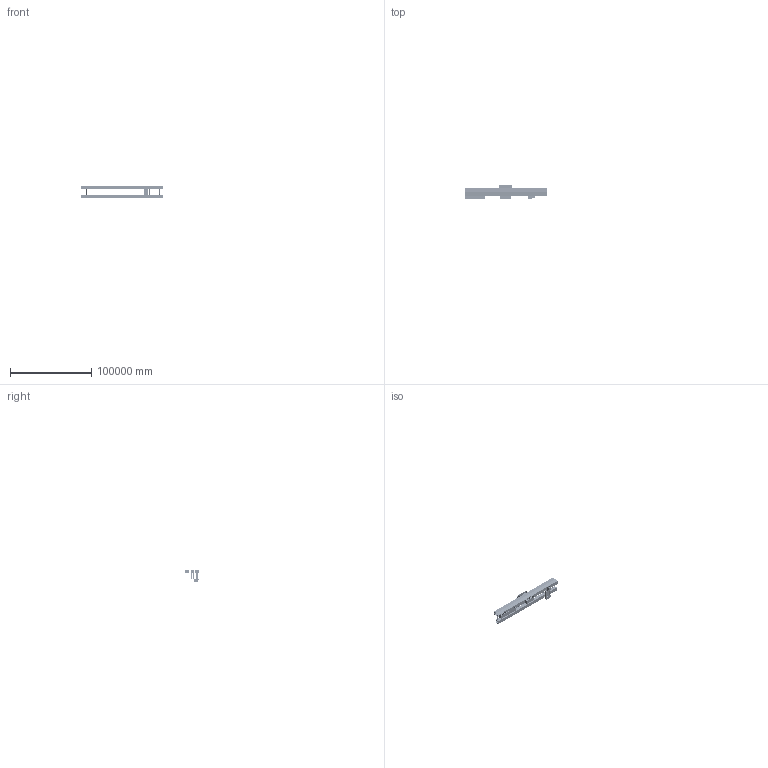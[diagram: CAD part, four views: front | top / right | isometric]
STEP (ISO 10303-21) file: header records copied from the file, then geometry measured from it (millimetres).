
FILE_DESCRIPTION(/* description */ ('Unknown','CAx-IF Rec.Pracs.---Representation and Presentation of Product Manufacturing Information (PMI)---4.0---2014-10-13','CAx-IF Rec.Pracs.---3D Tessellated Geometry---0.4---2014-09-14','2;1'),/* implementation_level */ '2;1');
FILE_NAME(/* name */ 'DSG-000024077_sector_09',/* time_stamp */ '2022-01-14T10:18:34-08:00',/* author */ ('Unknown'),/* organization */ ('Unknown'),/* preprocessor_version */ 'ST-DEVELOPER v16.7',/* originating_system */ 'DEX',/* authorisation */ $);
FILE_SCHEMA (('AP242_MANAGED_MODEL_BASED_3D_ENGINEERING_MIM_LF { 1 0 10303 442 1 1 4 }'));
Products named in the file (144): DSG-000024077; DSG-000017652_oa_0; REF-000116546; REF-000166915; REF-000116537; REF-000116547; DSG-000017654; REF-000092901; REF-000092910; REF-000107659; REF-000092902; REF-000144152; REF-000144151; DSG-000017655_oa_1; REF-000113325; REF-000092897; REF-000130374; REF-000113326; REF-000147740; REF-000147747; REF-000144141; REF-000145154; REF-000144328; REF-000144129; DSG-000017657_oa_2; REF-000109204; REF-000109226; REF-000109203; REF-000110308; REF-000109438; REF-000109437; REF-000109229; REF-000109514; REF-000109430; REF-000144154; REF-000144148; REF-000144157; DSG-000017702; REF-000144109; REF-000144326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
Assembly tree (817 placements, depth 6):
  DSG-000024077
    DSG-000017652_oa_0
      REF-000116546
        REF-000166915
        REF-000116537
        REF-000116547
      DSG-000017654
        REF-000166915
        REF-000092901
        REF-000092910  x8
        REF-000107659
        REF-000092902
        REF-000144152
        REF-000144151
      DSG-000017655_oa_1
        REF-000113325
        REF-000092897
        REF-000130374
        REF-000113326
        REF-000147740
        REF-000147747
        REF-000144141
        REF-000145154
        REF-000144328
        REF-000144129
      DSG-000017657_oa_2
        REF-000109204  x3
        REF-000109226
        REF-000109203
        REF-000110308
        REF-000109438
        REF-000109437
        REF-000109229  x5
        REF-000109514
        REF-000109430  x2
        REF-000144154
        REF-000144148
        REF-000144157
      DSG-000017702
        REF-000166915
        REF-000144109
        REF-000144326
        REF-000107639
        REF-000144153
        REF-000144108
        REF-000144118
        REF-000144111
        REF-000147748
        REF-000144327
        REF-000147750
      REF-000166915
      DSG-000017783
        REF-000166915
        REF-000144324
    DSG-000022422_oa_3
      DSG-000019384_oa_4
        REF-000190562
        REF-000150427
      DSG-000019385
        REF-000190562
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Bounding box: 408503.81 x 16357.6 x 15875 mm (x, y, z)
Volume: 8938323285704 mm3; surface area: 55437388334.8 mm2
Topology: 975 solids, 981 shells, 24509 faces, 65921 edges, 42862 vertices
Faces by surface type: plane 13211, cylinder 6874, cone 4250, torus 172, bspline 2
Full cylindrical faces by diameter (mm): 4.917 x8, 6 x8, 6.4 x8, 6.6 x12, 6.731 x60, 6.792 x15, 7.112 x8, 7.805 x8, 7.938 x414, 8.382 x16, 8.433 x880, 8.738 x28, 8.88 x8, 8.89 x214, 9.525 x8, 9.775 x32, 10 x1, 10.312 x8, 10.584 x22, 11.684 x214, 12 x8, 12.573 x8, 12.7 x57, 12.827 x1, 13.487 x46, 14.224 x14, 14.287 x1320, 15.875 x29, 19.05 x16, 19.837 x12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
Entity records: 107170 total; most frequent: CARTESIAN_POINT 17167, DIRECTION 16864, ORIENTED_EDGE 14418, EDGE_CURVE 7212, AXIS2_PLACEMENT_3D 6037, VERTEX_POINT 5236, FACE_BOUND 5020, EDGE_LOOP 5019
